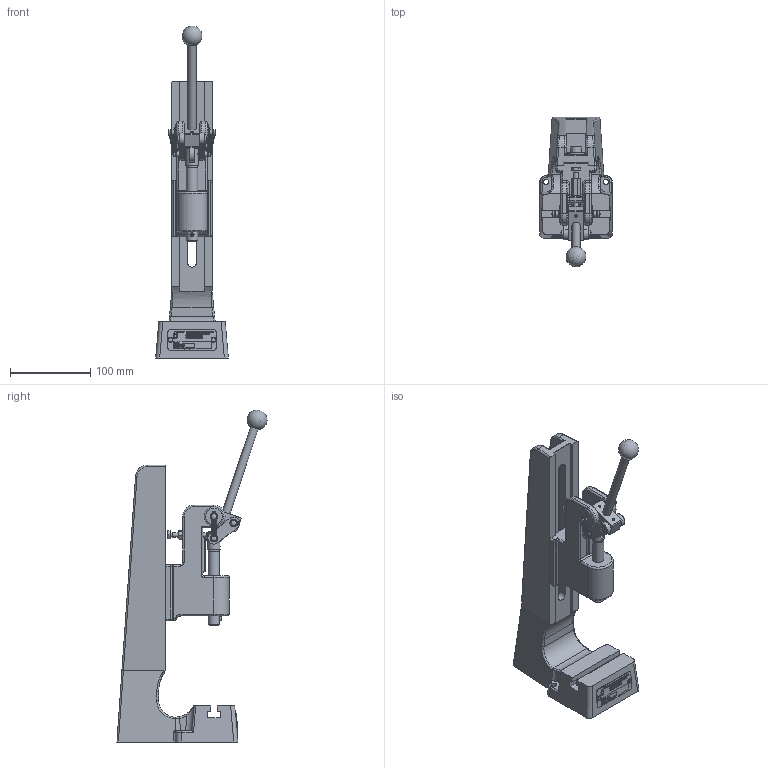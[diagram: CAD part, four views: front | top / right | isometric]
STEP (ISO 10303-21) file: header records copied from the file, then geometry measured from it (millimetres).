
FILE_DESCRIPTION(/* description */ ('Pressenständer HP 225 T'),/* implementation_level */ '2;1');
FILE_NAME(/* name */ 'B:\02_CAD_oeffentlich\CAD_3D_oeffentlich_step\Kniehebel Presse\HP_225_KT.stp',/* time_stamp */ '2017-05-11T07:33:42+02:00',/* author */ ('Finsterle'),/* organization */ (''),/* preprocessor_version */ 'ST-DEVELOPER v16.1',/* originating_system */ 'Autodesk Inventor 2016',/* authorisation */ '');
FILE_SCHEMA (('AUTOMOTIVE_DESIGN { 1 0 10303 214 3 1 1 }'));
Products named in the file (5): HBF-000895; HBF-000912_V; HBF-000314; HBF-000315; HBF-000913_V
Assembly tree (5 placements, depth 2):
  HBF-000913_V
    HBF-000895
    HBF-000912_V
    HBF-000314
    HBF-000315  x2
Bounding box: 90.48 x 187.05 x 413.63 mm (x, y, z)
Volume: 992712 mm3; surface area: 190611.7 mm2
Topology: 12 solids, 13 shells, 2778 faces, 7494 edges, 4921 vertices
Faces by surface type: plane 1497, bspline 929, cylinder 233, torus 68, cone 30, sphere 21
Full cylindrical faces by diameter (mm): 0.65 x4, 2 x2, 3 x4, 3.2 x2, 5 x1, 5.459 x1, 6 x2, 6.4 x1, 6.5 x8, 6.647 x1, 6.8 x2, 7 x17, 7.06 x4, 7.6 x1, 8 x2, 8.4 x2, 8.7 x1, 9.98 x1, 10 x1, 11.1 x2, 13 x4, 13.5 x1, 14 x2, 15.2 x2, 16 x1, 16.5 x2, 19 x1, 20 x2
Entity records: 106461 total; most frequent: CARTESIAN_POINT 41141, ORIENTED_EDGE 14582, DIRECTION 9635, EDGE_CURVE 7269, VERTEX_POINT 4834, LINE 4589, VECTOR 4589, EDGE_LOOP 3169
